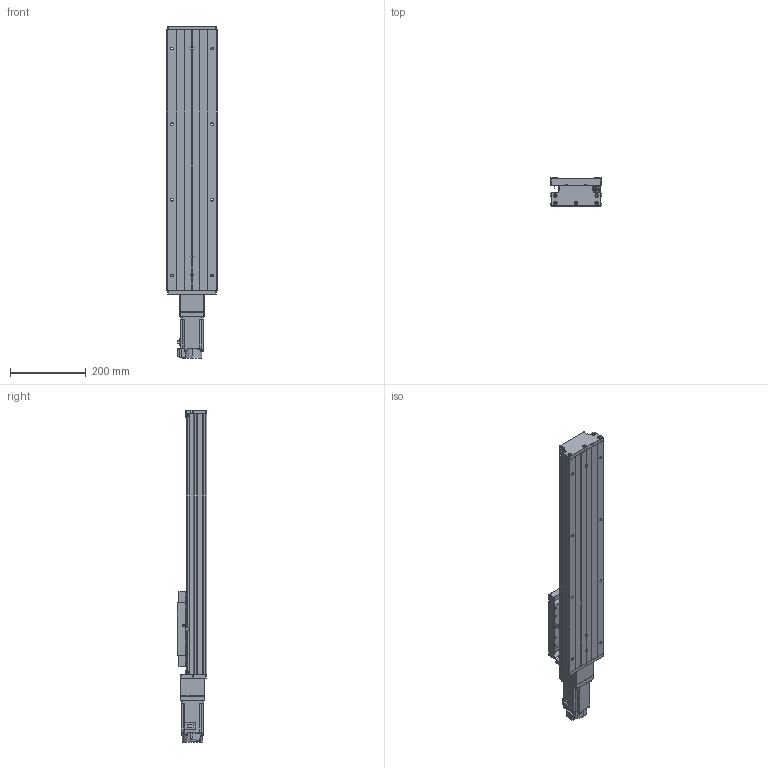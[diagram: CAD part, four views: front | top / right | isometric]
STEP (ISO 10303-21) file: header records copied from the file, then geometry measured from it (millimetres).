
FILE_DESCRIPTION (( 'STEP AP203' ), '1' );
FILE_NAME ('GTH14-450-BC-M40-C4.step', '2023-06-30T08:34:03', ( '微软用户' ), ( '微软中国' ), 'SwSTEP 2.0', 'SolidWorks 2020', '' );
FILE_SCHEMA (( 'CONFIG_CONTROL_DESIGN' ));
Length unit declared in the file: millimetre
Products named in the file (20): GTH14-001_450; CTHA60-017; CTHA86-006-1_M40; GTH14-002_GTH14-002; EE_SX911P_R; CTHA86-013; GTH14-004; CTHA60-016; CTHA86-027-1; GTH14-005; GBT 70.1-M3℅5; HG-KN43J-S100; GB1155-6X6; GBT77-2000 M3×3; GBT 70.3-M3℅8; GBT70.1 M5℅16; GTH14-031; GTH14-450-BC-M40-C4; GBT 70.2-M3¡Á5_M3¡Á6; す晦芛蹟隊 M3℅5
Assembly tree (57 placements, depth 2):
  GTH14-450-BC-M40-C4
    GTH14-001_450
    GTH14-002_GTH14-002
    GTH14-004
    GTH14-005
    GB1155-6X6  x2
    GBT70.1 M5℅16  x10
    GBT 70.2-M3¡Á5_M3¡Á6  x8
    CTHA60-017  x3
    EE_SX911P_R  x3
    CTHA60-016  x2
    GBT 70.1-M3℅5  x6
    GBT77-2000 M3×3  x6
    GTH14-031
    す晦芛蹟隊 M3℅5  x6
    CTHA86-006-1_M40
    CTHA86-013
    CTHA86-027-1
    HG-KN43J-S100
    GBT 70.3-M3℅8  x2
Bounding box: 135 x 78 x 878.7 mm (x, y, z)
Volume: 4411197.5 mm3; surface area: 721326.1 mm2
Topology: 60 solids, 60 shells, 2404 faces, 5733 edges, 3538 vertices
Faces by surface type: plane 1300, cylinder 640, cone 304, torus 120, sphere 20, bspline 20
Entity records: 44112 total; most frequent: CARTESIAN_POINT 9847, DIRECTION 6456, ORIENTED_EDGE 6350, EDGE_CURVE 3175, AXIS2_PLACEMENT_3D 2191, LINE 2074, VECTOR 2074, VERTEX_POINT 2006
